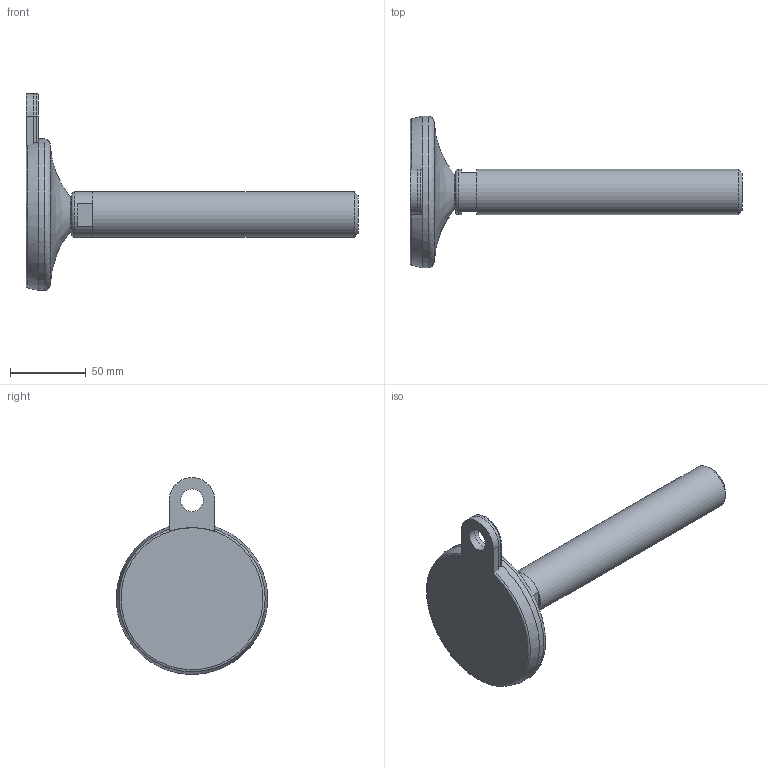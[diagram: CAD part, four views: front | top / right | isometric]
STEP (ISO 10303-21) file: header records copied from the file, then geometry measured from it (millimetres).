
FILE_DESCRIPTION(('STEP AP203'),'2;1');
FILE_NAME('25186-F.stp','2014-09-16T16:39:01',(''),(''),'2008.1.107','THINKDESIGN','');
FILE_SCHEMA(('CONFIG_CONTROL_DESIGN'));
Length unit declared in the file: millimetre
Bounding box: 219 x 100 x 130 mm (x, y, z)
Volume: 288383.1 mm3; surface area: 61809 mm2
Topology: 7 solids, 7 shells, 49 faces, 114 edges, 79 vertices
Faces by surface type: plane 24, cylinder 16, bspline 9
Full cylindrical faces by diameter (mm): 15 x3, 30 x2, 100 x1
Entity records: 2760 total; most frequent: CARTESIAN_POINT 1513, DIRECTION 248, ORIENTED_EDGE 228, EDGE_CURVE 114, AXIS2_PLACEMENT_3D 102, VERTEX_POINT 79, CIRCLE 62, EDGE_LOOP 55
